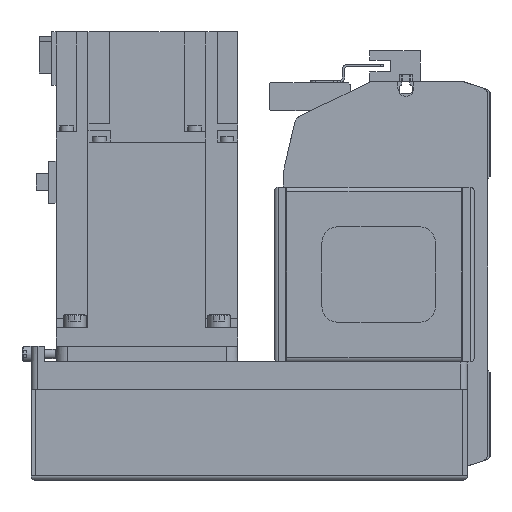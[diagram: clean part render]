
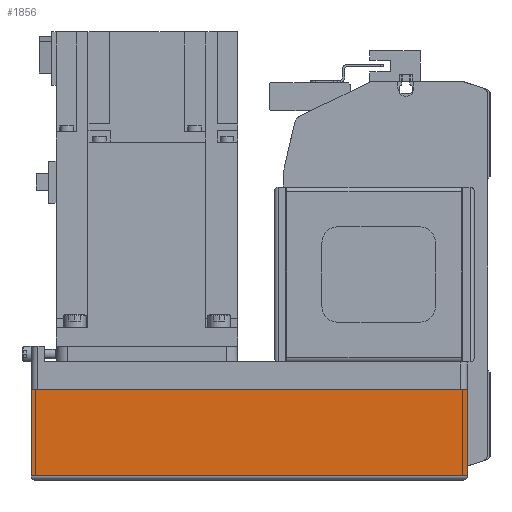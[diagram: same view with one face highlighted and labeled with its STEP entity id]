
A CAD part, left-side view. The second image highlights one B-rep face of the part: STEP entity #1856.
In plain terms, the highlighted planar face has unit normal (-1, 0, 0) as drawn and (0, -1, 0) by its records, which use the part's own axes.
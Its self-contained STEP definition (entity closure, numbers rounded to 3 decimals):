
#1856 = ADVANCED_FACE( '', ( #4303 ), #4304, .T. );
#4303 = FACE_OUTER_BOUND( '', #7487, .T. );
#4304 = PLANE( '', #7488 );
#7487 = EDGE_LOOP( '', ( #12631, #12632, #12633, #12634 ) );
#7488 = AXIS2_PLACEMENT_3D( '', #12635, #12636, #12637 );
#12631 = ORIENTED_EDGE( '', *, *, #18966, .F. );
#12632 = ORIENTED_EDGE( '', *, *, #19309, .F. );
#12633 = ORIENTED_EDGE( '', *, *, #19969, .T. );
#12634 = ORIENTED_EDGE( '', *, *, #19992, .T. );
#12635 = CARTESIAN_POINT( '', ( -192., -40., -12.1 ) );
#12636 = DIRECTION( '', ( 0., -1., 0. ) );
#12637 = DIRECTION( '', ( 0., 0., -1. ) );
#18966 = EDGE_CURVE( '', #22910, #22911, #22912, .T. );
#19309 = EDGE_CURVE( '', #23476, #22910, #23477, .T. );
#19969 = EDGE_CURVE( '', #23476, #24518, #24520, .T. );
#19992 = EDGE_CURVE( '', #24518, #22911, #24554, .T. );
#22910 = VERTEX_POINT( '', #28419 );
#22911 = VERTEX_POINT( '', #28420 );
#22912 = LINE( '', #28421, #28422 );
#23476 = VERTEX_POINT( '', #29225 );
#23477 = LINE( '', #29226, #29227 );
#24518 = VERTEX_POINT( '', #30726 );
#24520 = LINE( '', #30729, #30730 );
#24554 = LINE( '', #30774, #30775 );
#28419 = CARTESIAN_POINT( '', ( 0., -40., -12.1 ) );
#28420 = CARTESIAN_POINT( '', ( 0., -40., -50. ) );
#28421 = CARTESIAN_POINT( '', ( 0., -40., -12.1 ) );
#28422 = VECTOR( '', #34923, 1000. );
#29225 = CARTESIAN_POINT( '', ( -192., -40., -12.1 ) );
#29226 = CARTESIAN_POINT( '', ( -192., -40., -12.1 ) );
#29227 = VECTOR( '', #35351, 1000. );
#30726 = CARTESIAN_POINT( '', ( -192., -40., -50. ) );
#30729 = CARTESIAN_POINT( '', ( -192., -40., -12.1 ) );
#30730 = VECTOR( '', #36164, 1000. );
#30774 = CARTESIAN_POINT( '', ( -192., -40., -50. ) );
#30775 = VECTOR( '', #36190, 1000. );
#34923 = DIRECTION( '', ( 0., 0., -1. ) );
#35351 = DIRECTION( '', ( 1., 0., 0. ) );
#36164 = DIRECTION( '', ( 0., 0., -1. ) );
#36190 = DIRECTION( '', ( 1., 0., 0. ) );
